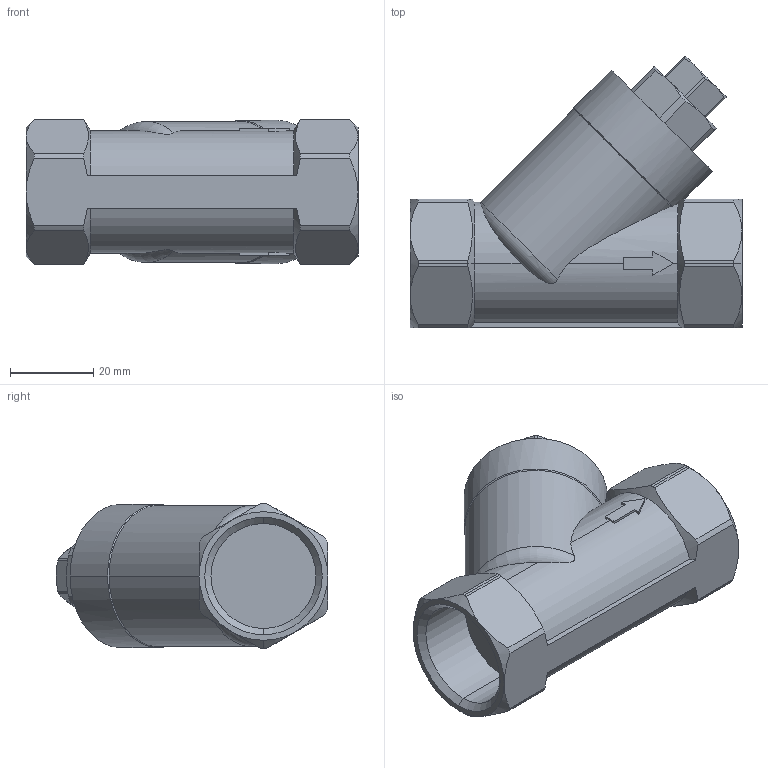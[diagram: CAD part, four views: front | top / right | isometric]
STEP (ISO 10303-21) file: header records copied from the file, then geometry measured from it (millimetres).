
FILE_DESCRIPTION (( 'STEP AP203' ), '1' );
FILE_NAME ('10.000.020.0.STEP', '2018-12-07T10:51:42', ( 'dell2' ), ( 'Microsoft' ), 'SwSTEP 2.0', 'SolidWorks 2017', '' );
FILE_SCHEMA (( 'CONFIG_CONTROL_DESIGN' ));
Length unit declared in the file: millimetre
Products named in the file (1): 10.000.020.0
Bounding box: 80 x 65.45 x 35 mm (x, y, z)
Volume: 78013.8 mm3; surface area: 16156.9 mm2
Topology: 1 solids, 1 shells, 127 faces, 324 edges, 203 vertices
Faces by surface type: plane 48, cylinder 39, cone 38, torus 2
Entity records: 4396 total; most frequent: CARTESIAN_POINT 1332, ORIENTED_EDGE 648, DIRECTION 609, EDGE_CURVE 324, AXIS2_PLACEMENT_3D 244, VERTEX_POINT 203, EDGE_LOOP 131, ADVANCED_FACE 127
